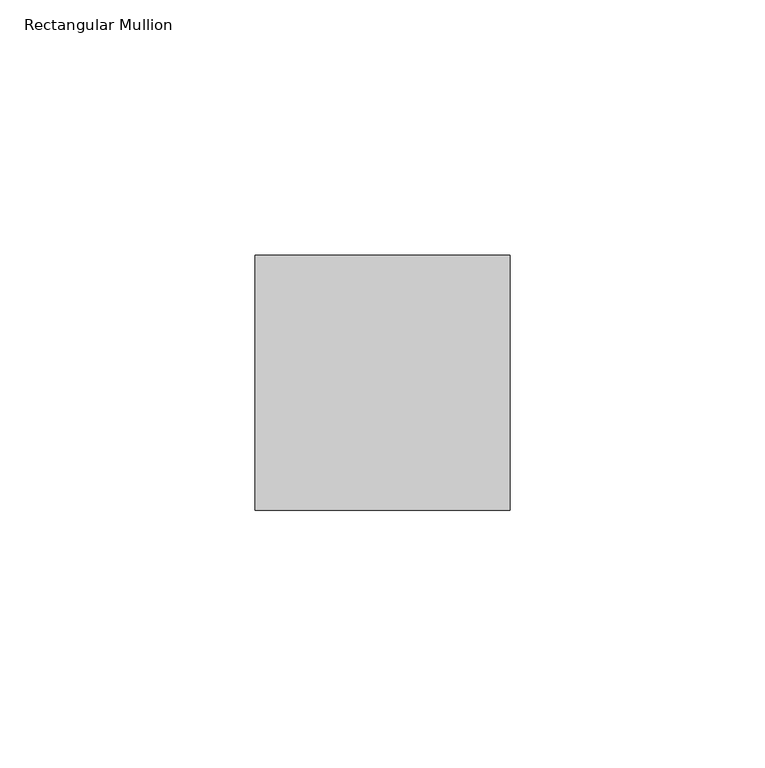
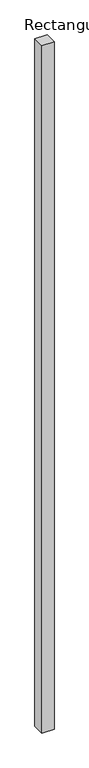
"""IFC4 building model written with IfcOpenShell, lengths in millimetres: member geometry, Rectangular Mullion : RSen_21_CWM_support profile - 50x50 - right_gen_duco projects."""

from ifc_helpers import new_model, si_unit, frame, origin, place, context, project, spatial, polyline, outline, extrude, source, transform, mapped, element, save


def rectangular_mullion_40295cf1(model_context):
    return source(origin(), model_context, "Body", "SweptSolid", [
        extrude(outline(polyline([(-100.0, 1.0), (-50.0, 1.0), (-50.0, -49.0), (-100.0, -49.0), (-100.0, 1.0)])), frame((0.0, 0.0, -3000.0), z_axis=(0.0, 0.0, 1.0), x_axis=(1.0, 0.0, 0.0)), (0.0, 0.0, 1.0), 3000.0),
    ])


if __name__ == "__main__":
    model = new_model("IFC4")
    model_context = context("Model", 3, world=origin())
    ifc_project = project(units=[si_unit("LENGTHUNIT", "METRE", prefix="MILLI")], contexts=[model_context])
    site = spatial("IfcSite", under=ifc_project)
    building = spatial("IfcBuilding", under=site)
    placement = place(None, origin())
    rectangular_mullion_shape = rectangular_mullion_40295cf1(model_context)
    element("IfcMember", 1, ObjectType="Rectangular Mullion : RSen_21_CWM_support profile - 50x50 - right_gen_duco projects", at=placement, inside=building, context=model_context, shape_type="MappedRepresentation", body=[
        mapped(rectangular_mullion_shape, transform((0.0, 0.0, 0.0), x_axis=(1.0, 0.0, 0.0), y_axis=(0.0, 1.0, 0.0), z_axis=(0.0, 0.0, 1.0))),
    ])
    save(model, "model.ifc")
